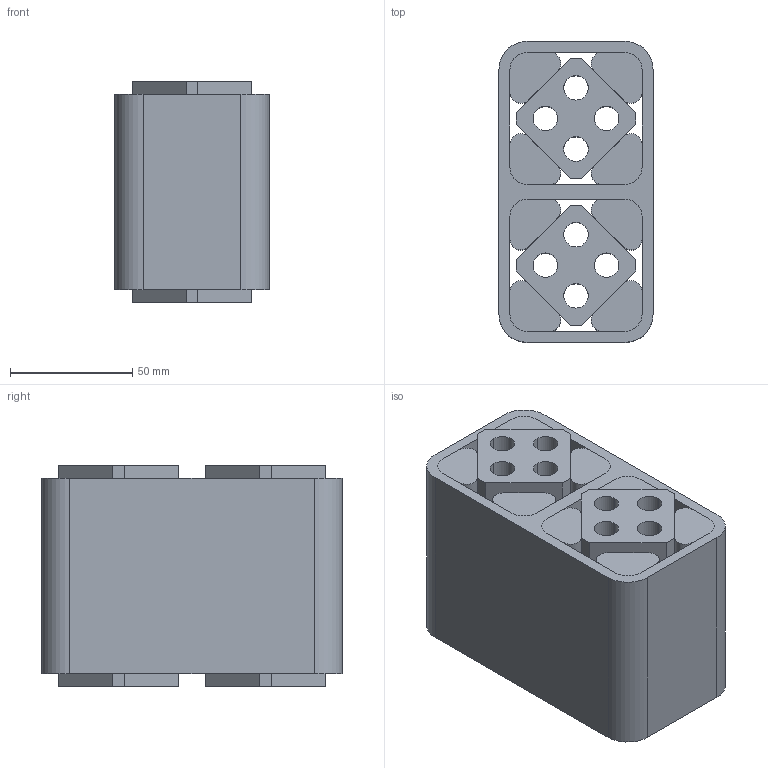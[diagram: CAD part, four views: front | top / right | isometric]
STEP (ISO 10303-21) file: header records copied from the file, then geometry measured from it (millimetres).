
FILE_DESCRIPTION((''),'2;1');
FILE_NAME('D:\ROSTA\Gummifederelemente\3D\DO-A38x80_01041011.stp','2005-02-09T16:01:37',('Administrator'),(''),'Autodesk Inventor 8','Autodesk Inventor 8','');
FILE_SCHEMA(('AUTOMOTIVE_DESIGN { 1 0 10303 214 1 1 1 1 }'));
Length unit declared in the file: millimetre
Products named in the file (4): Baugruppe2; 4.4.3761-005; 4.4.3761-006; 4.4.3761-007
Assembly tree (11 placements, depth 2):
  Baugruppe2
    4.4.3761-005
    4.4.3761-006  x2
    4.4.3761-007  x8
Bounding box: 63 x 123 x 90 mm (x, y, z)
Volume: 547095.7 mm3; surface area: 165625.9 mm2
Topology: 11 solids, 11 shells, 126 faces, 312 edges, 208 vertices
Faces by surface type: plane 74, cylinder 52
Entity records: 1819 total; most frequent: DIRECTION 318, CARTESIAN_POINT 297, ORIENTED_EDGE 276, EDGE_CURVE 138, AXIS2_PLACEMENT_3D 113, VERTEX_POINT 92, VECTOR 92, LINE 92
